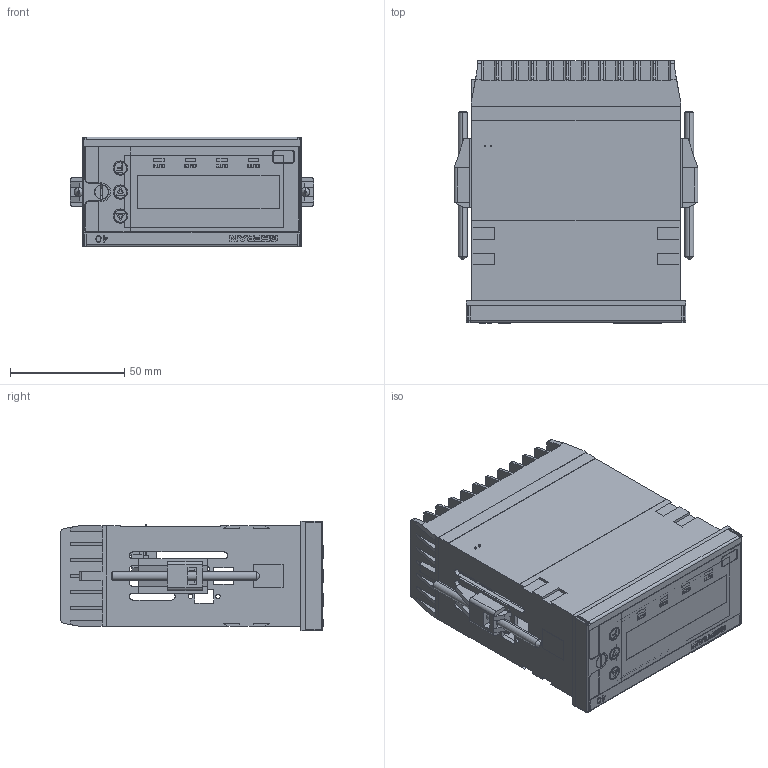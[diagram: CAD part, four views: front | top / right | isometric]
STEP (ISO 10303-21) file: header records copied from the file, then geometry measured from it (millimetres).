
FILE_DESCRIPTION((''),'2;1');
FILE_NAME('STRUMENTO_40B96-5','2019-07-17T14:21:45',('paolo.garatti'),('GEFRAN S.p.A via Carducci,24 21040 Gerenzano (VA)'),'CREO PARAMETRIC BY PTC INC, 2018300','CREO PARAMETRIC BY PTC INC, 2018300','');
FILE_SCHEMA(('AUTOMOTIVE_DESIGN { 1 0 10303 214 1 1 1 1 }'));
Products named in the file (14): 51341P_FRONTALE_48X96; 51215_SCATOLA48X96_CORTA; 51281; 51397_AERSTOP_48X96; 48034_VITE_TSP_M3X26; 452153; 49044_BLOCCHETTO_CHIUSURA; SCHEDINA_SENSORE; COVER_SENSORE; SCHEDINA_SENSORE_3D; SENSORE; BLOCK; 53053; STRUMENTO_40B96-5
Assembly tree (14 placements, depth 3):
  STRUMENTO_40B96-5
    51341P_FRONTALE_48X96
    51215_SCATOLA48X96_CORTA
    51281
    51397_AERSTOP_48X96
    48034_VITE_TSP_M3X26
    452153
    49044_BLOCCHETTO_CHIUSURA
    SENSORE
      SCHEDINA_SENSORE
      COVER_SENSORE
      SCHEDINA_SENSORE_3D
    BLOCK  x2
    53053
Bounding box: 106.6 x 114.74 x 48 mm (x, y, z)
Volume: 122063.5 mm3; surface area: 134265.9 mm2
Topology: 15 solids, 15 shells, 3051 faces, 8746 edges, 5761 vertices
Faces by surface type: plane 2535, cylinder 444, extrusion 28, cone 26, torus 14, bspline 4
Entity records: 126305 total; most frequent: CARTESIAN_POINT 17882, ORIENTED_EDGE 17020, DIRECTION 15125, PRESENTATION_STYLE_ASSIGNMENT 8521, EDGE_CURVE 8510, STYLED_ITEM 8439, CURVE_STYLE 8427, VECTOR 7355
